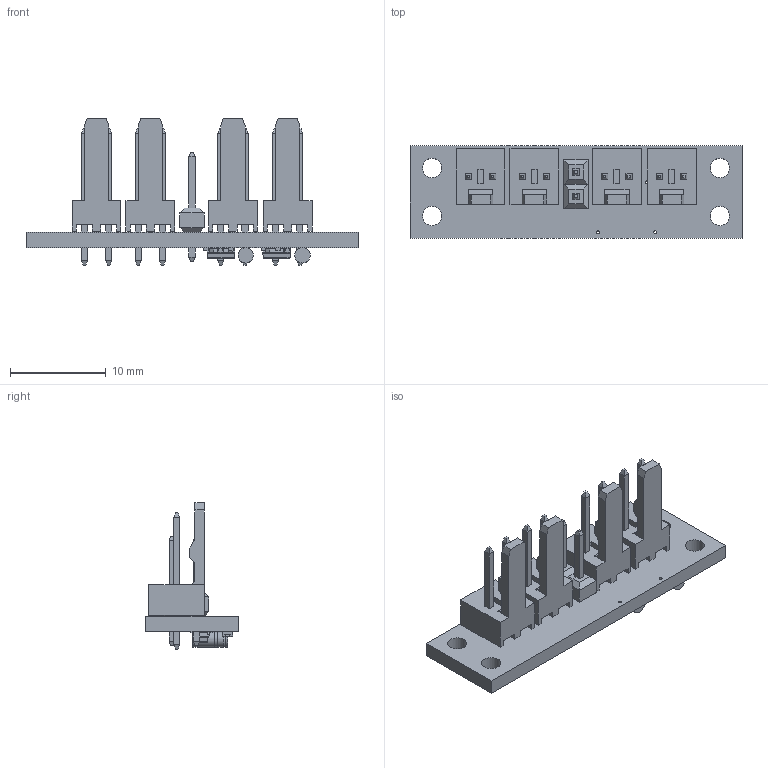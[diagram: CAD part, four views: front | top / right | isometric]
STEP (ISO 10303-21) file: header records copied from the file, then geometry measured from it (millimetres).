
FILE_DESCRIPTION(/* description */ (''),/* implementation_level */ '2;1');
FILE_NAME(/* name */ 'C:/Users/priba/Documents/Temp/Export/mrm-fets.step',/* time_stamp */ '2019-09-09T12:40:52+02:00',/* author */ (''),/* organization */ (''),/* preprocessor_version */ 'ST-DEVELOPER v18',/* originating_system */ 'Autodesk Translation Framework v8.6.0.1094',/* authorisation */ '');
FILE_SCHEMA (('AUTOMOTIVE_DESIGN { 1 0 10303 214 3 1 1 }'));
Length unit declared in the file: millimetre
Products named in the file (13): mrm-fets; PCB Component; Board; 1 uF; INFINEON_BAV103-GS08; MOLEX_22-27-2021; 1X02; NEXPERIA_PMV40UN2R; Body; PinsArrayL; FilletPinR; 10 kOhm; FIDUCIAL1X2
Assembly tree (23 placements, depth 4):
  mrm-fets
    PCB Component
      Board
      1 uF  x2
      INFINEON_BAV103-GS08  x2
      MOLEX_22-27-2021  x4
      1X02
      NEXPERIA_PMV40UN2R  x2
        Body
        PinsArrayL
        FilletPinR
      10 kOhm  x4
      FIDUCIAL1X2  x3
Bounding box: 34.6 x 9.6 x 15.26 mm (x, y, z)
Volume: 990.3 mm3; surface area: 2141.7 mm2
Topology: 24 solids, 24 shells, 971 faces, 2679 edges, 1778 vertices
Faces by surface type: plane 640, cylinder 243, sphere 80, cone 4, torus 4
Full cylindrical faces by diameter (mm): 0.163 x2, 0.3 x5, 1.016 x2, 1.11 x8, 1.6 x6, 1.607 x2, 2 x4
Entity records: 12200 total; most frequent: CARTESIAN_POINT 2467, ORIENTED_EDGE 1882, DIRECTION 1810, EDGE_CURVE 941, VERTEX_POINT 623, AXIS2_PLACEMENT_3D 610, LINE 590, VECTOR 590
